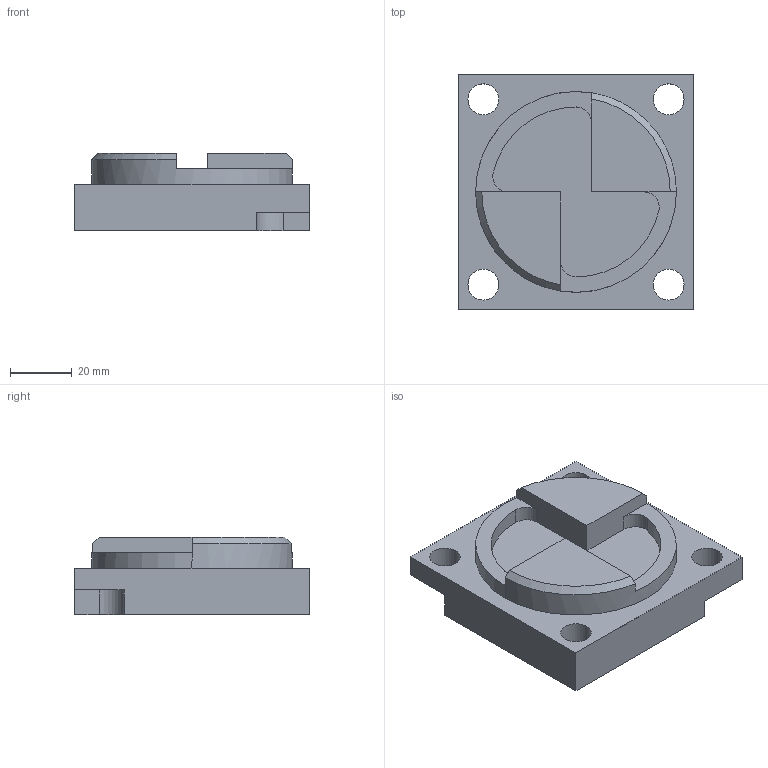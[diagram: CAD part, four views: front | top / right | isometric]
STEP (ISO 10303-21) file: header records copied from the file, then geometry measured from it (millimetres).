
FILE_DESCRIPTION (( 'STEP AP214' ), '1' );
FILE_NAME ('MILLING_1.STEP', '2015-05-08T17:48:02', ( '' ), ( '' ), 'SwSTEP 2.0', 'SolidWorks 2015', '' );
FILE_SCHEMA (( 'AUTOMOTIVE_DESIGN' ));
Length unit declared in the file: millimetre
Products named in the file (1): MILLING_1
Bounding box: 76 x 76 x 25 mm (x, y, z)
Volume: 79137.4 mm3; surface area: 22366.2 mm2
Topology: 1 solids, 1 shells, 57 faces, 157 edges, 104 vertices
Faces by surface type: plane 30, cylinder 25, cone 2
Entity records: 1885 total; most frequent: DIRECTION 329, CARTESIAN_POINT 325, ORIENTED_EDGE 314, EDGE_CURVE 157, AXIS2_PLACEMENT_3D 116, VERTEX_POINT 104, LINE 97, VECTOR 97
